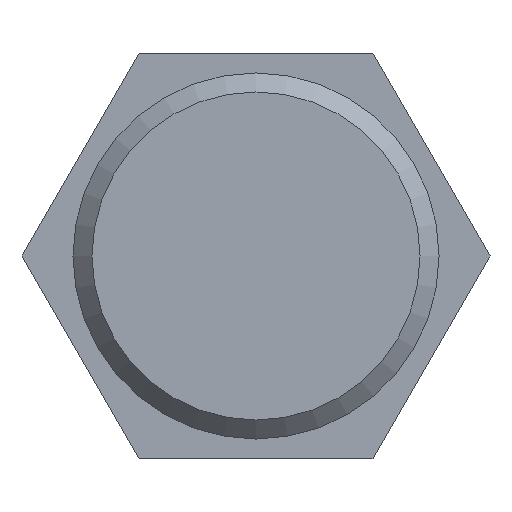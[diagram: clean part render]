
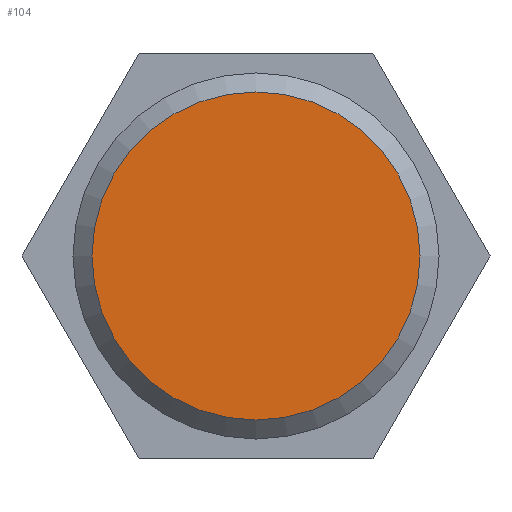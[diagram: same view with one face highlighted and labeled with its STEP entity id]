
A CAD part, left-side view. The second image highlights one B-rep face of the part: STEP entity #104.
In plain terms, the highlighted planar face has unit normal (-1, 0, 0).
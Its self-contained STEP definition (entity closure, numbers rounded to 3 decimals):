
#73=CARTESIAN_POINT('',(0.,12.95,0.));
#74=VERTEX_POINT('',#73);
#75=CARTESIAN_POINT('',(0.,0.0,0.0));
#76=DIRECTION('',(1.0,0.0,0.0));
#77=DIRECTION('',(0.0,-1.0,0.0));
#78=AXIS2_PLACEMENT_3D('',#75,#76,#77);
#79=CIRCLE('',#78,12.95);
#80=EDGE_CURVE('',#74,#74,#79,.T.);
#96=CARTESIAN_POINT('',(0.,7.225,0.0));
#97=DIRECTION('',(-1.0,0.0,0.0));
#98=DIRECTION('',(0.0,0.0,1.0));
#99=AXIS2_PLACEMENT_3D('',#96,#97,#98);
#100=PLANE('',#99);
#101=ORIENTED_EDGE('',*,*,#80,.F.);
#102=EDGE_LOOP('',(#101));
#103=FACE_OUTER_BOUND('',#102,.T.);
#104=ADVANCED_FACE('',(#103),#100,.T.);
